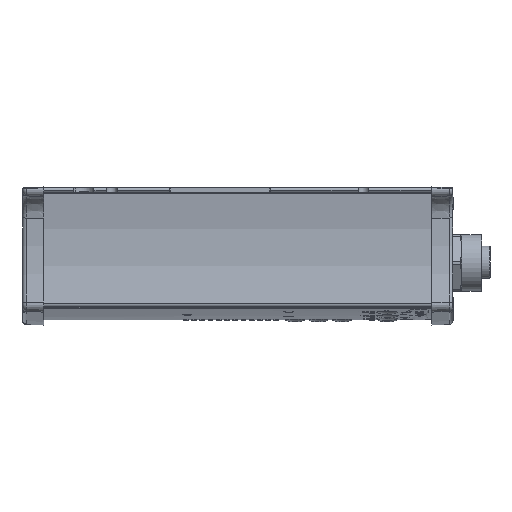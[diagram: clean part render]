
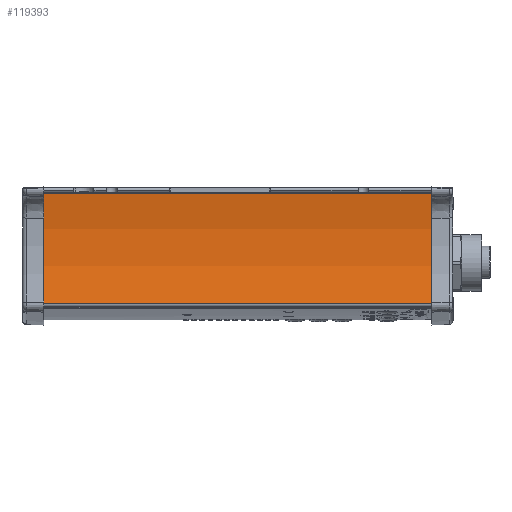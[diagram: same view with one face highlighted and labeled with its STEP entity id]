
A CAD part, left-side view. The second image highlights one B-rep face of the part: STEP entity #119393.
In plain terms, the highlighted cylindrical face has radius 109.9 mm (diameter 219.8 mm), a partial arc.
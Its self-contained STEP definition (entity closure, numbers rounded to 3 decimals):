
#6560 = ORIENTED_EDGE ( 'NONE', *, *, #175154, .T. ) ;
#7586 = CARTESIAN_POINT ( 'NONE',  ( -81.929, -1., -49.24 ) ) ;
#13254 = DIRECTION ( 'NONE',  ( 0., 1., 0. ) ) ;
#28943 = DIRECTION ( 'NONE',  ( 0., 1., 0. ) ) ;
#44913 = CARTESIAN_POINT ( 'NONE',  ( -187.95, -175., -20.3 ) ) ;
#47359 = CARTESIAN_POINT ( 'NONE',  ( -79.662, -175., -1.548 ) ) ;
#48761 = VERTEX_POINT ( 'NONE', #47359 ) ;
#59369 = CARTESIAN_POINT ( 'NONE',  ( -79.662, -175., -1.548 ) ) ;
#62905 = ORIENTED_EDGE ( 'NONE', *, *, #103082, .T. ) ;
#63403 = VECTOR ( 'NONE', #148114, 1000. ) ;
#82044 = VECTOR ( 'NONE', #28943, 1000. ) ;
#85536 = LINE ( 'NONE', #59369, #63403 ) ;
#95091 = VERTEX_POINT ( 'NONE', #7586 ) ;
#101583 = CARTESIAN_POINT ( 'NONE',  ( -187.95, -1., -20.3 ) ) ;
#103082 = EDGE_CURVE ( 'NONE', #48761, #238566, #85536, .T. ) ;
#108649 = CIRCLE ( 'NONE', #159698, 109.9 ) ;
#110978 = ORIENTED_EDGE ( 'NONE', *, *, #154049, .F. ) ;
#111805 = DIRECTION ( 'NONE',  ( 0., 0., -1. ) ) ;
#114867 = LINE ( 'NONE', #161379, #82044 ) ;
#116237 = ORIENTED_EDGE ( 'NONE', *, *, #269294, .F. ) ;
#119393 = ADVANCED_FACE ( 'NONE', ( #222280 ), #158280, .F. ) ;
#145249 = DIRECTION ( 'NONE',  ( 0., 0., 1. ) ) ;
#148114 = DIRECTION ( 'NONE',  ( 0., 1., 0. ) ) ;
#150619 = VERTEX_POINT ( 'NONE', #153555 ) ;
#153555 = CARTESIAN_POINT ( 'NONE',  ( -81.929, -175., -49.24 ) ) ;
#153722 = AXIS2_PLACEMENT_3D ( 'NONE', #101583, #277308, #145249 ) ;
#154049 = EDGE_CURVE ( 'NONE', #48761, #150619, #108649, .T. ) ;
#158280 = CYLINDRICAL_SURFACE ( 'NONE', #237685, 109.9 ) ;
#159698 = AXIS2_PLACEMENT_3D ( 'NONE', #276328, #13254, #231437 ) ;
#161379 = CARTESIAN_POINT ( 'NONE',  ( -81.929, -175., -49.24 ) ) ;
#167998 = CARTESIAN_POINT ( 'NONE',  ( -79.662, -1., -1.548 ) ) ;
#172123 = CIRCLE ( 'NONE', #153722, 109.9 ) ;
#175154 = EDGE_CURVE ( 'NONE', #238566, #95091, #172123, .T. ) ;
#181802 = EDGE_LOOP ( 'NONE', ( #6560, #116237, #110978, #62905 ) ) ;
#222280 = FACE_OUTER_BOUND ( 'NONE', #181802, .T. ) ;
#231437 = DIRECTION ( 'NONE',  ( 0., 0., 1. ) ) ;
#237685 = AXIS2_PLACEMENT_3D ( 'NONE', #44913, #242573, #111805 ) ;
#238566 = VERTEX_POINT ( 'NONE', #167998 ) ;
#242573 = DIRECTION ( 'NONE',  ( 0., 1., 0. ) ) ;
#269294 = EDGE_CURVE ( 'NONE', #150619, #95091, #114867, .T. ) ;
#276328 = CARTESIAN_POINT ( 'NONE',  ( -187.95, -175., -20.3 ) ) ;
#277308 = DIRECTION ( 'NONE',  ( 0., 1., 0. ) ) ;
